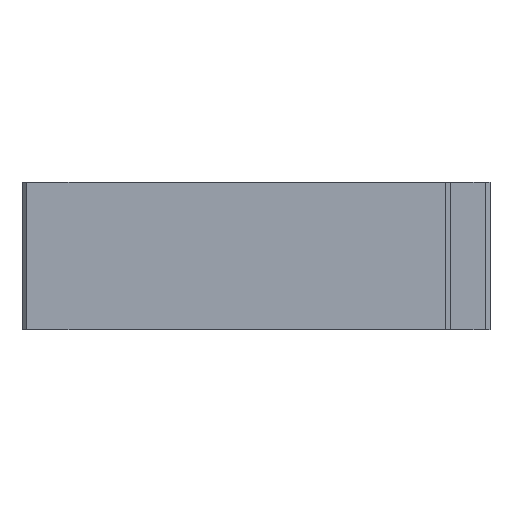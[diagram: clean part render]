
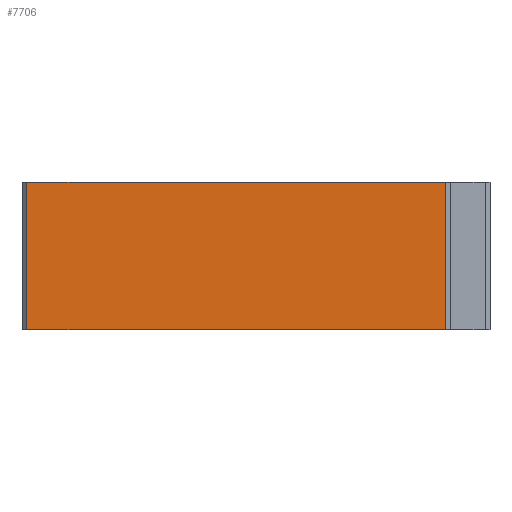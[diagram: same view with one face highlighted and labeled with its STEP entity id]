
A CAD part, left-side view. The second image highlights one B-rep face of the part: STEP entity #7706.
In plain terms, the highlighted planar face has unit normal (-1, 0, 0).
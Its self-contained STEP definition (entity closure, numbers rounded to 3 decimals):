
#22 = PLANE ( 'NONE',  #3413 ) ;
#437 = EDGE_LOOP ( 'NONE', ( #4634, #4042, #3595, #4453 ) ) ;
#850 = VERTEX_POINT ( 'NONE', #4829 ) ;
#1039 = VERTEX_POINT ( 'NONE', #7388 ) ;
#1131 = LINE ( 'NONE', #8738, #5556 ) ;
#1198 = CARTESIAN_POINT ( 'NONE',  ( -8.033, 9.387, -5.792 ) ) ;
#1618 = EDGE_CURVE ( 'NONE', #1039, #6770, #1131, .T. ) ;
#1722 = EDGE_CURVE ( 'NONE', #850, #1039, #7632, .T. ) ;
#2735 = VERTEX_POINT ( 'NONE', #3430 ) ;
#2935 = DIRECTION ( 'NONE',  ( 0., 0., -1. ) ) ;
#3141 = VECTOR ( 'NONE', #3984, 1000. ) ;
#3321 = LINE ( 'NONE', #3364, #7720 ) ;
#3364 = CARTESIAN_POINT ( 'NONE',  ( -8.033, 9.587, 0.208 ) ) ;
#3413 = AXIS2_PLACEMENT_3D ( 'NONE', #6800, #3621, #6248 ) ;
#3430 = CARTESIAN_POINT ( 'NONE',  ( -8.033, 9.387, 0.208 ) ) ;
#3595 = ORIENTED_EDGE ( 'NONE', *, *, #1618, .F. ) ;
#3621 = DIRECTION ( 'NONE',  ( 1., 0., 0. ) ) ;
#3873 = DIRECTION ( 'NONE',  ( 0., 1., 0. ) ) ;
#3984 = DIRECTION ( 'NONE',  ( 0., 0., -1. ) ) ;
#4042 = ORIENTED_EDGE ( 'NONE', *, *, #6673, .T. ) ;
#4453 = ORIENTED_EDGE ( 'NONE', *, *, #1722, .F. ) ;
#4634 = ORIENTED_EDGE ( 'NONE', *, *, #5765, .T. ) ;
#4825 = VECTOR ( 'NONE', #2935, 1000. ) ;
#4829 = CARTESIAN_POINT ( 'NONE',  ( -8.033, -7.713, 0.208 ) ) ;
#4864 = DIRECTION ( 'NONE',  ( 0., 1., 0. ) ) ;
#4936 = CARTESIAN_POINT ( 'NONE',  ( -8.033, 9.387, -5.792 ) ) ;
#5556 = VECTOR ( 'NONE', #3873, 1000. ) ;
#5765 = EDGE_CURVE ( 'NONE', #850, #2735, #3321, .T. ) ;
#5987 = LINE ( 'NONE', #1198, #3141 ) ;
#6206 = FACE_OUTER_BOUND ( 'NONE', #437, .T. ) ;
#6248 = DIRECTION ( 'NONE',  ( 0., 1., 0. ) ) ;
#6673 = EDGE_CURVE ( 'NONE', #2735, #6770, #5987, .T. ) ;
#6770 = VERTEX_POINT ( 'NONE', #4936 ) ;
#6800 = CARTESIAN_POINT ( 'NONE',  ( -8.033, 9.587, -5.792 ) ) ;
#7388 = CARTESIAN_POINT ( 'NONE',  ( -8.033, -7.713, -5.792 ) ) ;
#7580 = CARTESIAN_POINT ( 'NONE',  ( -8.033, -7.713, 0.208 ) ) ;
#7632 = LINE ( 'NONE', #7580, #4825 ) ;
#7706 = ADVANCED_FACE ( 'NONE', ( #6206 ), #22, .F. ) ;
#7720 = VECTOR ( 'NONE', #4864, 1000. ) ;
#8738 = CARTESIAN_POINT ( 'NONE',  ( -8.033, 9.587, -5.792 ) ) ;
